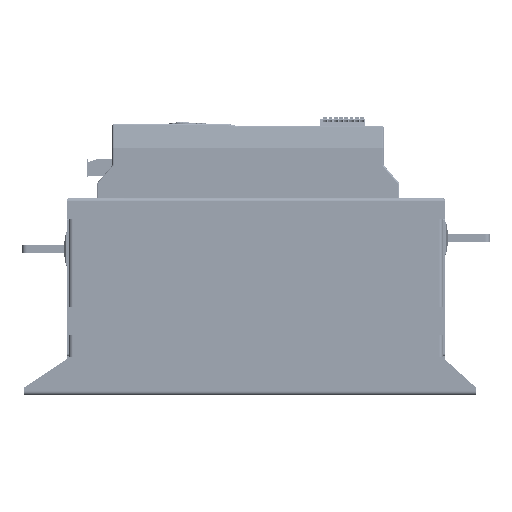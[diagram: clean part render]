
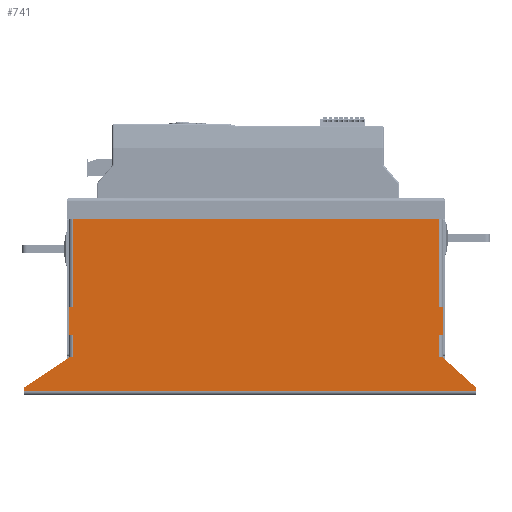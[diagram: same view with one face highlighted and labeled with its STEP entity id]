
A CAD part, front view. The second image highlights one B-rep face of the part: STEP entity #741.
In plain terms, the highlighted planar face has unit normal (0, -1, 0).
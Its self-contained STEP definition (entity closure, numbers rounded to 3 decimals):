
#688 = VERTEX_POINT('',#689);
#689 = CARTESIAN_POINT('',(300.,-135.,2.4));
#721 = VERTEX_POINT('',#722);
#722 = CARTESIAN_POINT('',(0.,-135.,2.4));
#731 = EDGE_CURVE('',#721,#688,#732,.T.);
#732 = LINE('',#733,#734);
#733 = CARTESIAN_POINT('',(0.,-135.,2.4));
#734 = VECTOR('',#735,1.);
#735 = DIRECTION('',(1.,0.,0.));
#741 = ADVANCED_FACE('',(#742),#895,.T.);
#742 = FACE_BOUND('',#743,.F.);
#743 = EDGE_LOOP('',(#744,#754,#762,#768,#769,#777,#785,#793,#801,#809,
    #817,#825,#833,#841,#849,#857,#865,#873,#881,#889));
#744 = ORIENTED_EDGE('',*,*,#745,.F.);
#745 = EDGE_CURVE('',#746,#748,#750,.T.);
#746 = VERTEX_POINT('',#747);
#747 = CARTESIAN_POINT('',(278.,-135.,25.));
#748 = VERTEX_POINT('',#749);
#749 = CARTESIAN_POINT('',(275.6,-135.,25.));
#750 = LINE('',#751,#752);
#751 = CARTESIAN_POINT('',(278.,-135.,25.));
#752 = VECTOR('',#753,1.);
#753 = DIRECTION('',(-1.,0.,0.));
#754 = ORIENTED_EDGE('',*,*,#755,.T.);
#755 = EDGE_CURVE('',#746,#756,#758,.T.);
#756 = VERTEX_POINT('',#757);
#757 = CARTESIAN_POINT('',(300.,-135.,5.));
#758 = LINE('',#759,#760);
#759 = CARTESIAN_POINT('',(278.,-135.,25.));
#760 = VECTOR('',#761,1.);
#761 = DIRECTION('',(0.74,0.,-0.673));
#762 = ORIENTED_EDGE('',*,*,#763,.T.);
#763 = EDGE_CURVE('',#756,#688,#764,.T.);
#764 = LINE('',#765,#766);
#765 = CARTESIAN_POINT('',(300.,-135.,5.));
#766 = VECTOR('',#767,1.);
#767 = DIRECTION('',(0.,0.,-1.));
#768 = ORIENTED_EDGE('',*,*,#731,.F.);
#769 = ORIENTED_EDGE('',*,*,#770,.T.);
#770 = EDGE_CURVE('',#721,#771,#773,.T.);
#771 = VERTEX_POINT('',#772);
#772 = CARTESIAN_POINT('',(0.,-135.,5.));
#773 = LINE('',#774,#775);
#774 = CARTESIAN_POINT('',(0.,-135.,2.4));
#775 = VECTOR('',#776,1.);
#776 = DIRECTION('',(0.,0.,1.));
#777 = ORIENTED_EDGE('',*,*,#778,.T.);
#778 = EDGE_CURVE('',#771,#779,#781,.T.);
#779 = VERTEX_POINT('',#780);
#780 = CARTESIAN_POINT('',(30.,-135.,25.));
#781 = LINE('',#782,#783);
#782 = CARTESIAN_POINT('',(0.,-135.,5.));
#783 = VECTOR('',#784,1.);
#784 = DIRECTION('',(0.832,0.,0.555));
#785 = ORIENTED_EDGE('',*,*,#786,.F.);
#786 = EDGE_CURVE('',#787,#779,#789,.T.);
#787 = VERTEX_POINT('',#788);
#788 = CARTESIAN_POINT('',(32.4,-135.,25.));
#789 = LINE('',#790,#791);
#790 = CARTESIAN_POINT('',(32.4,-135.,25.));
#791 = VECTOR('',#792,1.);
#792 = DIRECTION('',(-1.,0.,0.));
#793 = ORIENTED_EDGE('',*,*,#794,.F.);
#794 = EDGE_CURVE('',#795,#787,#797,.T.);
#795 = VERTEX_POINT('',#796);
#796 = CARTESIAN_POINT('',(32.4,-135.,40.2));
#797 = LINE('',#798,#799);
#798 = CARTESIAN_POINT('',(32.4,-135.,40.2));
#799 = VECTOR('',#800,1.);
#800 = DIRECTION('',(0.,0.,-1.));
#801 = ORIENTED_EDGE('',*,*,#802,.F.);
#802 = EDGE_CURVE('',#803,#795,#805,.T.);
#803 = VERTEX_POINT('',#804);
#804 = CARTESIAN_POINT('',(30.,-135.,40.2));
#805 = LINE('',#806,#807);
#806 = CARTESIAN_POINT('',(30.,-135.,40.2));
#807 = VECTOR('',#808,1.);
#808 = DIRECTION('',(1.,0.,0.));
#809 = ORIENTED_EDGE('',*,*,#810,.T.);
#810 = EDGE_CURVE('',#803,#811,#813,.T.);
#811 = VERTEX_POINT('',#812);
#812 = CARTESIAN_POINT('',(30.,-135.,58.2));
#813 = LINE('',#814,#815);
#814 = CARTESIAN_POINT('',(30.,-135.,40.2));
#815 = VECTOR('',#816,1.);
#816 = DIRECTION('',(0.,0.,1.));
#817 = ORIENTED_EDGE('',*,*,#818,.F.);
#818 = EDGE_CURVE('',#819,#811,#821,.T.);
#819 = VERTEX_POINT('',#820);
#820 = CARTESIAN_POINT('',(32.4,-135.,58.2));
#821 = LINE('',#822,#823);
#822 = CARTESIAN_POINT('',(32.4,-135.,58.2));
#823 = VECTOR('',#824,1.);
#824 = DIRECTION('',(-1.,0.,0.));
#825 = ORIENTED_EDGE('',*,*,#826,.F.);
#826 = EDGE_CURVE('',#827,#819,#829,.T.);
#827 = VERTEX_POINT('',#828);
#828 = CARTESIAN_POINT('',(32.4,-135.,117.));
#829 = LINE('',#830,#831);
#830 = CARTESIAN_POINT('',(32.4,-135.,117.));
#831 = VECTOR('',#832,1.);
#832 = DIRECTION('',(0.,0.,-1.));
#833 = ORIENTED_EDGE('',*,*,#834,.T.);
#834 = EDGE_CURVE('',#827,#835,#837,.T.);
#835 = VERTEX_POINT('',#836);
#836 = CARTESIAN_POINT('',(40.,-135.,117.));
#837 = LINE('',#838,#839);
#838 = CARTESIAN_POINT('',(32.4,-135.,117.));
#839 = VECTOR('',#840,1.);
#840 = DIRECTION('',(1.,0.,0.));
#841 = ORIENTED_EDGE('',*,*,#842,.F.);
#842 = EDGE_CURVE('',#843,#835,#845,.T.);
#843 = VERTEX_POINT('',#844);
#844 = CARTESIAN_POINT('',(268.,-135.,117.));
#845 = LINE('',#846,#847);
#846 = CARTESIAN_POINT('',(268.,-135.,117.));
#847 = VECTOR('',#848,1.);
#848 = DIRECTION('',(-1.,0.,0.));
#849 = ORIENTED_EDGE('',*,*,#850,.T.);
#850 = EDGE_CURVE('',#843,#851,#853,.T.);
#851 = VERTEX_POINT('',#852);
#852 = CARTESIAN_POINT('',(275.6,-135.,117.));
#853 = LINE('',#854,#855);
#854 = CARTESIAN_POINT('',(268.,-135.,117.));
#855 = VECTOR('',#856,1.);
#856 = DIRECTION('',(1.,0.,0.));
#857 = ORIENTED_EDGE('',*,*,#858,.F.);
#858 = EDGE_CURVE('',#859,#851,#861,.T.);
#859 = VERTEX_POINT('',#860);
#860 = CARTESIAN_POINT('',(275.6,-135.,58.2));
#861 = LINE('',#862,#863);
#862 = CARTESIAN_POINT('',(275.6,-135.,58.2));
#863 = VECTOR('',#864,1.);
#864 = DIRECTION('',(0.,0.,1.));
#865 = ORIENTED_EDGE('',*,*,#866,.F.);
#866 = EDGE_CURVE('',#867,#859,#869,.T.);
#867 = VERTEX_POINT('',#868);
#868 = CARTESIAN_POINT('',(278.,-135.,58.2));
#869 = LINE('',#870,#871);
#870 = CARTESIAN_POINT('',(278.,-135.,58.2));
#871 = VECTOR('',#872,1.);
#872 = DIRECTION('',(-1.,0.,0.));
#873 = ORIENTED_EDGE('',*,*,#874,.F.);
#874 = EDGE_CURVE('',#875,#867,#877,.T.);
#875 = VERTEX_POINT('',#876);
#876 = CARTESIAN_POINT('',(278.,-135.,40.2));
#877 = LINE('',#878,#879);
#878 = CARTESIAN_POINT('',(278.,-135.,40.2));
#879 = VECTOR('',#880,1.);
#880 = DIRECTION('',(0.,0.,1.));
#881 = ORIENTED_EDGE('',*,*,#882,.F.);
#882 = EDGE_CURVE('',#883,#875,#885,.T.);
#883 = VERTEX_POINT('',#884);
#884 = CARTESIAN_POINT('',(275.6,-135.,40.2));
#885 = LINE('',#886,#887);
#886 = CARTESIAN_POINT('',(275.6,-135.,40.2));
#887 = VECTOR('',#888,1.);
#888 = DIRECTION('',(1.,0.,0.));
#889 = ORIENTED_EDGE('',*,*,#890,.F.);
#890 = EDGE_CURVE('',#748,#883,#891,.T.);
#891 = LINE('',#892,#893);
#892 = CARTESIAN_POINT('',(275.6,-135.,25.));
#893 = VECTOR('',#894,1.);
#894 = DIRECTION('',(0.,0.,1.));
#895 = PLANE('',#896);
#896 = AXIS2_PLACEMENT_3D('',#897,#898,#899);
#897 = CARTESIAN_POINT('',(300.,-135.,0.));
#898 = DIRECTION('',(0.,-1.,0.));
#899 = DIRECTION('',(1.,0.,0.));
